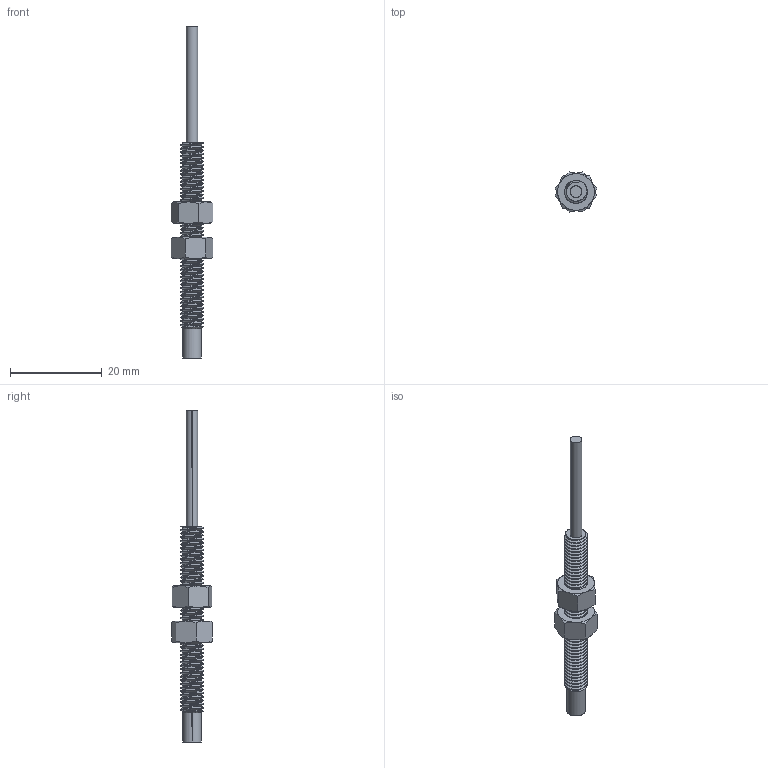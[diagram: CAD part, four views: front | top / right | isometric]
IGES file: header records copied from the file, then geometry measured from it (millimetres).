
Start section: SolidWorks IGES file using analytic representation for surfaces
Global section: file name: C:\Documents and Settings\Administrator\My Documents\EDI\3D\finished sensors\5CM.IGS; native system: SolidWorks 2008; preprocessor: SolidWorks 2008; author: Administrator; date: 100304.193614; units: millimetre
Bounding box: 9.07 x 8.73 x 72.4 mm (x, y, z)
Surface area: 1854.8 mm2 (no closed solid volume)
Topology: 0 solids, 0 shells, 239 faces, 3109 edges, 3109 vertices
Faces by surface type: revolution 217, bspline 22
